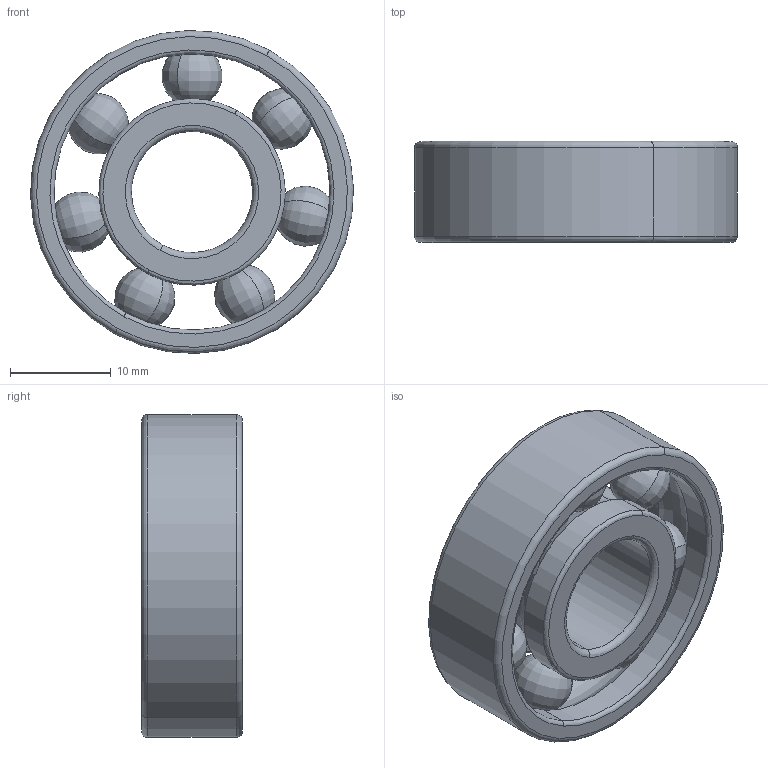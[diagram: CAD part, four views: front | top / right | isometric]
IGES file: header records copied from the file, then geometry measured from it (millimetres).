
Start section: START RECORD GO HERE.
Global section: file name: Prodotto1.igs; native system: IBM CATIA IGES - CATIA Version 5 Release 18 ; preprocessor: CATIA Version 5 Release 18 ; author: Lorenzo; organization: DESKTOP-3D7HSPD; date: 20190321.123244; units: millimetre
Bounding box: 31.99 x 10 x 31.99 mm (x, y, z)
Surface area: 4294.9 mm2 (no closed solid volume)
Topology: 0 solids, 0 shells, 50 faces, 200 edges, 172 vertices
Faces by surface type: revolution 46, plane 4
